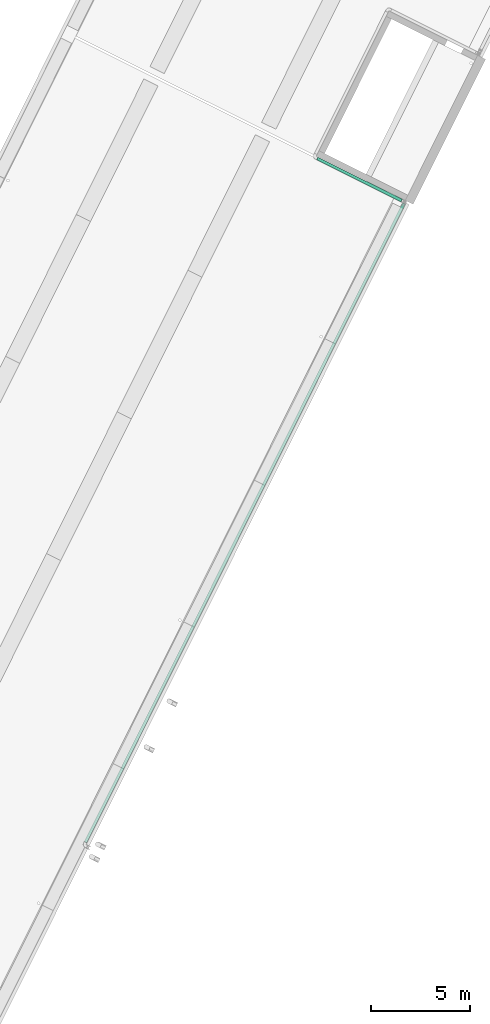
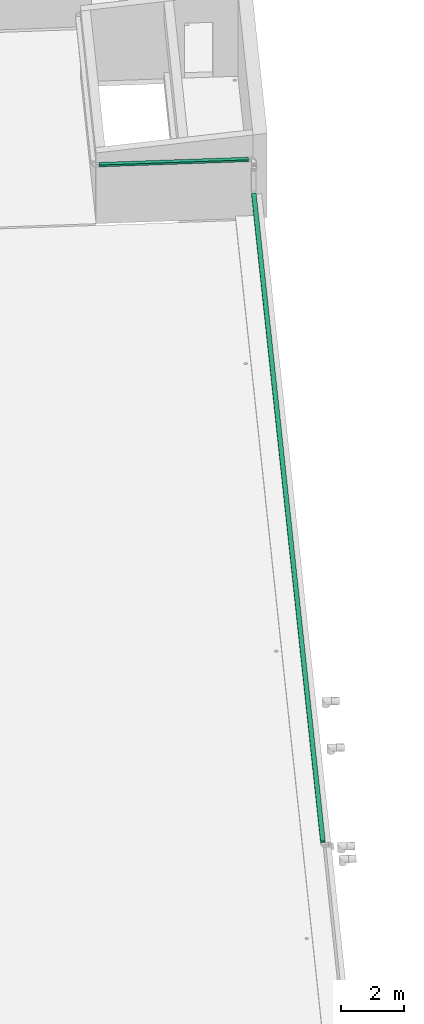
# One storey, part 10 of 34: 2 flow segments.
"""IFC2X3 building model written with IfcOpenShell, lengths in metres."""

from ifc_helpers import new_model, entity, si_unit, converted_unit, derived_unit, direction, frame, frame_2d, origin, place, context, subcontext, project, spatial, rectangle, extrude, type_object, element, save


model = new_model("IFC2X3")

# Units and contexts
model_context = context("Model", 3, precision=1e-05, world=origin(), true_north=direction((0.894925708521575, 0.446215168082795)))
context_of_model = context(None, 3, precision=1e-05, world=origin(), true_north=direction((0.894925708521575, 0.446215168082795)))
body_context = subcontext(model_context, "Body", "Model", "MODEL_VIEW")
ifc_project = project(units=[si_unit("LENGTHUNIT", "METRE"), si_unit("AREAUNIT", "SQUARE_METRE"), si_unit("VOLUMEUNIT", "CUBIC_METRE"), converted_unit("PLANEANGLEUNIT", "DEGREE", entity("IfcRatioMeasure", 0.0174532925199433), si_unit("PLANEANGLEUNIT", "RADIAN"), dimensions=[0, 0, 0, 0, 0, 0, 0]), si_unit("MASSUNIT", "GRAM", prefix="KILO"), si_unit("TIMEUNIT", "SECOND"), si_unit("FREQUENCYUNIT", "HERTZ"), si_unit("THERMODYNAMICTEMPERATUREUNIT", "DEGREE_CELSIUS"), derived_unit("THERMALTRANSMITTANCEUNIT", [(si_unit("MASSUNIT", "GRAM", prefix="KILO"), 1), (si_unit("THERMODYNAMICTEMPERATUREUNIT", "KELVIN"), -1), (si_unit("TIMEUNIT", "SECOND"), -3)]), derived_unit("VOLUMETRICFLOWRATEUNIT", [(si_unit("LENGTHUNIT", "METRE"), 3), (si_unit("TIMEUNIT", "SECOND"), -1)]), si_unit("ELECTRICCURRENTUNIT", "AMPERE"), si_unit("ELECTRICVOLTAGEUNIT", "VOLT"), si_unit("POWERUNIT", "WATT"), si_unit("FORCEUNIT", "NEWTON", prefix="KILO"), si_unit("ILLUMINANCEUNIT", "LUX"), si_unit("LUMINOUSFLUXUNIT", "LUMEN"), si_unit("LUMINOUSINTENSITYUNIT", "CANDELA"), si_unit("PRESSUREUNIT", "PASCAL")], contexts=[model_context, context_of_model])

# Site, building, storey
site_placement = place(None, frame((218.228324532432, 584.720189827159, 0.0), z_axis=(0.0, 0.0, 1.0), x_axis=(0.446215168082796, 0.894925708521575, 0.0)))
site = spatial("IfcSite", under=ifc_project, at=site_placement, Name="Default", CompositionType="ELEMENT")
building_placement = place(site_placement, origin())
building = spatial("IfcBuilding", under=site, at=building_placement, CompositionType="ELEMENT")
storey_placement = place(building_placement, frame((0.0, 0.0, 8.61)))
storey = spatial("IfcBuildingStorey", under=building, at=storey_placement, Name="2 - Piano Secondo", CompositionType="ELEMENT", Elevation=8.61)

# Flow segments
cable_carrier_segment_type = type_object("IfcCableCarrierSegmentType", Name="Passerella con raccordi:Passerella canale", PredefinedType="NOTDEFINED")
flow_segment_1_placement = place(storey_placement, frame((-49.021695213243, -13.2010789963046, 1.0225)))
element("IfcFlowSegment", 1, at=flow_segment_1_placement, inside=storey, type_object=cable_carrier_segment_type, Name="Passerella con raccordi:Passerella canale", ObjectType="Passerella con raccordi:Passerella canale", context=body_context, shape_type="SweptSolid", body=[
    extrude(rectangle(XDim=36.0673235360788, YDim=0.150000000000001, at=frame_2d((1.77635683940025e-15, 2.16493489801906e-15), x_axis=(1.0, 0.0))), frame((18.0336617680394, 0.0750000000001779, 0.0)), (0.0, 0.0, 1.0), 0.0750000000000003),
])
flow_segment_2_placement = place(storey_placement, frame((-12.9443716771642, -12.9560789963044, 2.3125)))
element("IfcFlowSegment", 2, at=flow_segment_2_placement, inside=storey, type_object=cable_carrier_segment_type, Name="Passerella con raccordi:Passerella canale", ObjectType="Passerella con raccordi:Passerella canale", context=body_context, shape_type="SweptSolid", body=[
    extrude(rectangle(XDim=4.77000000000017, YDim=0.150000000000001, at=frame_2d((4.44089209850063e-16, 0.0), x_axis=(1.0, 0.0))), frame((0.0750000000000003, 2.38500000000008, 0.0), z_axis=(0.0, 0.0, 1.0), x_axis=(0.0, -1.0, 0.0)), (0.0, 0.0, 1.0), 0.0750000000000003),
])

save(model, "model.ifc")
